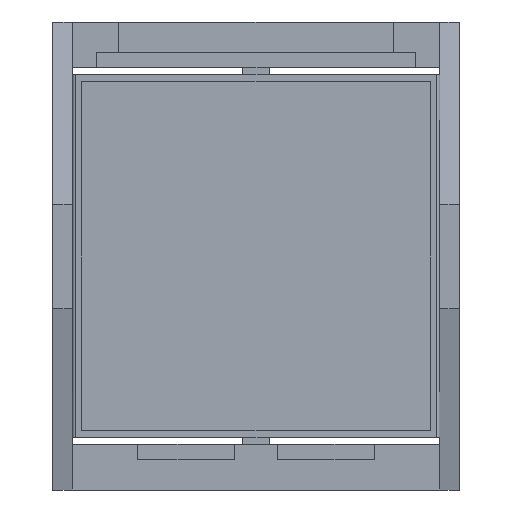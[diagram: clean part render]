
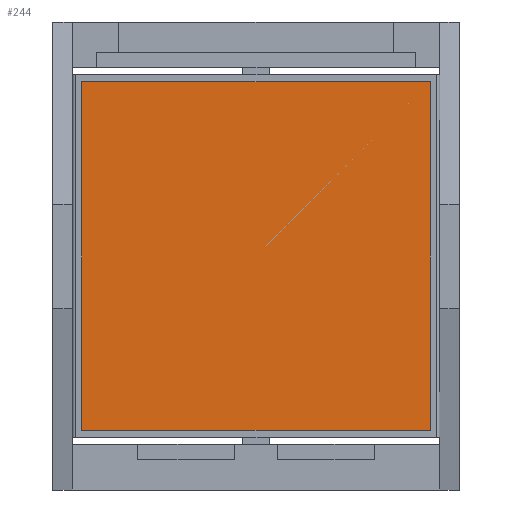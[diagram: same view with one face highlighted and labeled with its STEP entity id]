
A CAD part, front view. The second image highlights one B-rep face of the part: STEP entity #244.
In plain terms, the highlighted planar face has unit normal (0, -1, 0).
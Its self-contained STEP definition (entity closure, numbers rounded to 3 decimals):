
#121 = DIRECTION ( 'NONE',  ( 0., 0., 1. ) ) ;
#244 = ADVANCED_FACE ( 'NONE', ( #890 ), #5012, .F. ) ;
#376 = LINE ( 'NONE', #5959, #7346 ) ;
#401 = VERTEX_POINT ( 'NONE', #2333 ) ;
#541 = LINE ( 'NONE', #5499, #2044 ) ;
#797 = CARTESIAN_POINT ( 'NONE',  ( -12.7, -0.127, -12.7 ) ) ;
#890 = FACE_OUTER_BOUND ( 'NONE', #2845, .T. ) ;
#1024 = VERTEX_POINT ( 'NONE', #797 ) ;
#1305 = VECTOR ( 'NONE', #121, 1000. ) ;
#1425 = CARTESIAN_POINT ( 'NONE',  ( -12.7, -0.127, 12.7 ) ) ;
#1434 = ORIENTED_EDGE ( 'NONE', *, *, #6106, .F. ) ;
#1846 = EDGE_CURVE ( 'NONE', #6298, #1024, #3884, .T. ) ;
#2014 = VERTEX_POINT ( 'NONE', #3836 ) ;
#2044 = VECTOR ( 'NONE', #6084, 1000. ) ;
#2047 = ORIENTED_EDGE ( 'NONE', *, *, #5033, .F. ) ;
#2333 = CARTESIAN_POINT ( 'NONE',  ( -12.7, -0.127, 12.7 ) ) ;
#2397 = ORIENTED_EDGE ( 'NONE', *, *, #8015, .F. ) ;
#2845 = EDGE_LOOP ( 'NONE', ( #2047, #2876, #2397, #1434 ) ) ;
#2876 = ORIENTED_EDGE ( 'NONE', *, *, #1846, .F. ) ;
#2967 = DIRECTION ( 'NONE',  ( 1., 0., 0. ) ) ;
#3836 = CARTESIAN_POINT ( 'NONE',  ( 12.7, -0.127, 12.7 ) ) ;
#3884 = LINE ( 'NONE', #6381, #7873 ) ;
#4661 = AXIS2_PLACEMENT_3D ( 'NONE', #1425, #5658, #7461 ) ;
#5012 = PLANE ( 'NONE',  #4661 ) ;
#5033 = EDGE_CURVE ( 'NONE', #1024, #401, #6224, .T. ) ;
#5401 = CARTESIAN_POINT ( 'NONE',  ( 12.7, -0.127, -12.7 ) ) ;
#5499 = CARTESIAN_POINT ( 'NONE',  ( 12.7, -0.127, -12.7 ) ) ;
#5658 = DIRECTION ( 'NONE',  ( 0., 1., 0. ) ) ;
#5732 = CARTESIAN_POINT ( 'NONE',  ( -12.7, -0.127, -12.7 ) ) ;
#5959 = CARTESIAN_POINT ( 'NONE',  ( -12.7, -0.127, 12.7 ) ) ;
#6084 = DIRECTION ( 'NONE',  ( 0., 0., -1. ) ) ;
#6106 = EDGE_CURVE ( 'NONE', #401, #2014, #376, .T. ) ;
#6224 = LINE ( 'NONE', #5732, #1305 ) ;
#6298 = VERTEX_POINT ( 'NONE', #5401 ) ;
#6381 = CARTESIAN_POINT ( 'NONE',  ( -12.7, -0.127, -12.7 ) ) ;
#7346 = VECTOR ( 'NONE', #2967, 1000. ) ;
#7461 = DIRECTION ( 'NONE',  ( 0., 0., 1. ) ) ;
#7841 = DIRECTION ( 'NONE',  ( -1., 0., 0. ) ) ;
#7873 = VECTOR ( 'NONE', #7841, 1000. ) ;
#8015 = EDGE_CURVE ( 'NONE', #2014, #6298, #541, .T. ) ;
